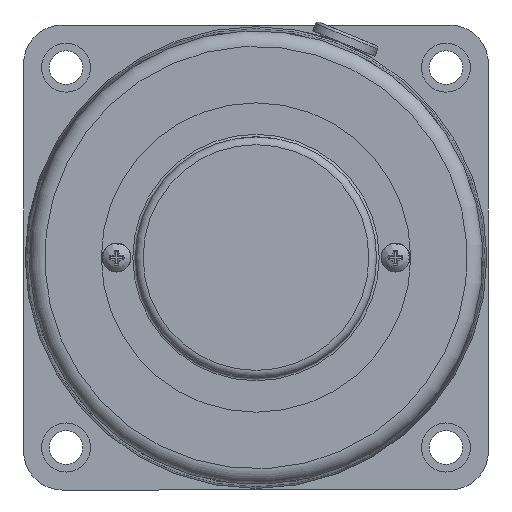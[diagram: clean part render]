
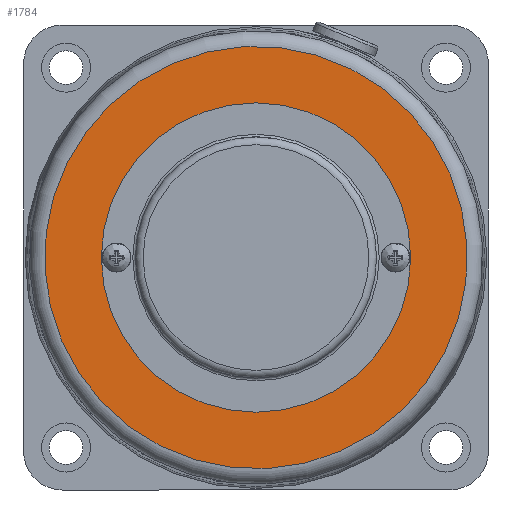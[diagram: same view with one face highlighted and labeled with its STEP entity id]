
A CAD part, left-side view. The second image highlights one B-rep face of the part: STEP entity #1784.
In plain terms, the highlighted planar face has unit normal (-1, 0, 0).
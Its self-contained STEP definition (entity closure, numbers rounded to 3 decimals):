
#1757=CARTESIAN_POINT('',(-40.5,0.,0.));
#1758=DIRECTION('',(-1.0,0.0,0.0));
#1759=DIRECTION('',(0.0,0.395,0.918));
#1760=AXIS2_PLACEMENT_3D('',#1757,#1758,#1759);
#1761=PLANE('',#1760);
#1762=CARTESIAN_POINT('',(-40.5,-16.174,-37.566));
#1763=VERTEX_POINT('',#1762);
#1764=CARTESIAN_POINT('',(-40.5,0.,0.));
#1765=DIRECTION('',(1.0,0.,0.));
#1766=DIRECTION('',(0.,0.395,0.918));
#1767=AXIS2_PLACEMENT_3D('',#1764,#1765,#1766);
#1768=CIRCLE('',#1767,40.9);
#1769=EDGE_CURVE('',#1763,#1763,#1768,.T.);
#1770=ORIENTED_EDGE('',*,*,#1769,.F.);
#1771=EDGE_LOOP('',(#1770));
#1772=FACE_OUTER_BOUND('',#1771,.T.);
#1773=CARTESIAN_POINT('',(-40.5,29.95,0.));
#1774=VERTEX_POINT('',#1773);
#1775=CARTESIAN_POINT('',(-40.5,0.,0.));
#1776=DIRECTION('',(-1.0,0.0,0.0));
#1777=DIRECTION('',(0.0,-1.0,0.0));
#1778=AXIS2_PLACEMENT_3D('',#1775,#1776,#1777);
#1779=CIRCLE('',#1778,29.95);
#1780=EDGE_CURVE('',#1774,#1774,#1779,.T.);
#1781=ORIENTED_EDGE('',*,*,#1780,.F.);
#1782=EDGE_LOOP('',(#1781));
#1783=FACE_BOUND('',#1782,.T.);
#1784=ADVANCED_FACE('',(#1772,#1783),#1761,.T.);
